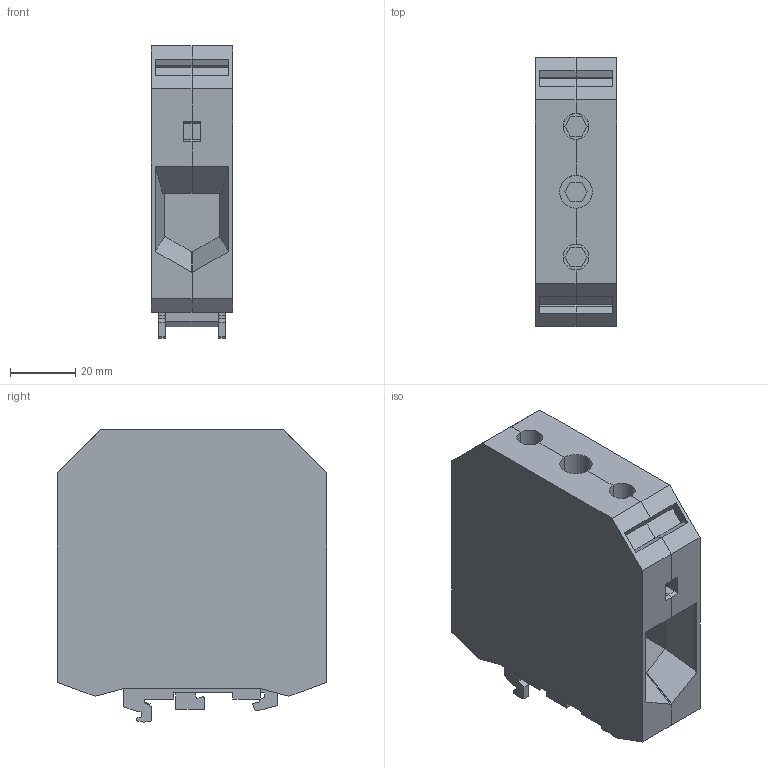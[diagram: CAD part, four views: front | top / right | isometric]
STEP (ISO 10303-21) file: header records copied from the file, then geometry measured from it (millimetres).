
FILE_DESCRIPTION(('Creo Elements/Direct Modeling STEP Export'),'2;1');
FILE_NAME('C:/Temp/JobServerData/JobServer Files/f7d11052-5058-4e25-9c2b-55ed05429678/work/output/model.stp','2021-11-08T 9:28:43',(''),(''),'Creo Elements/Direct Modeling STEP processor for AP214 (Solid Model)','Creo Elements/Direct Modeling 20.1D 10-Oct-2020 (C) Parametric Technology GmbH','');
FILE_SCHEMA(('AUTOMOTIVE_DESIGN { 1 0 10303 214 1 1 1 1 }'));
Length unit declared in the file: millimetre
Products named in the file (2): USLKG_95-select
Assembly tree (1 placements, depth 2):
  USLKG_95-select
    USLKG_95-select
Bounding box: 25.1 x 82.85 x 89.9 mm (x, y, z)
Volume: 136406.6 mm3; surface area: 29143.3 mm2
Topology: 1 solids, 1 shells, 206 faces, 590 edges, 390 vertices
Faces by surface type: plane 193, cylinder 13
Entity records: 7621 total; most frequent: ORIENTED_EDGE 1180, CARTESIAN_POINT 1055, DIRECTION 855, EDGE_CURVE 590, VECTOR 475, LINE 475, VERTEX_POINT 390, EDGE_LOOP 210
